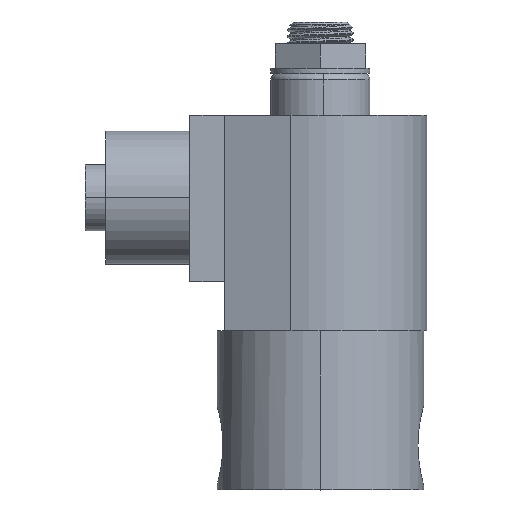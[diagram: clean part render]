
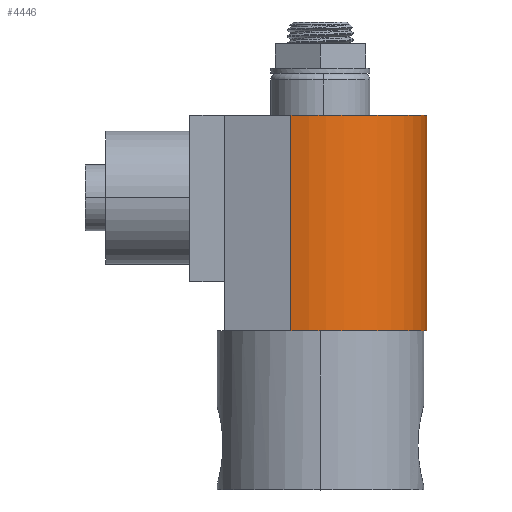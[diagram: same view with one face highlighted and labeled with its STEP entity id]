
A CAD part, top view. The second image highlights one B-rep face of the part: STEP entity #4446.
In plain terms, the highlighted cylindrical face has radius 20.32 mm (diameter 40.64 mm), a partial arc.
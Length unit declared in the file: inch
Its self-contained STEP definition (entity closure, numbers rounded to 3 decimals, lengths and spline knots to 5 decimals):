
#362 = DIRECTION ( 'NONE',  ( 1., 0., 0. ) ) ;
#1172 = CARTESIAN_POINT ( 'NONE',  ( -0.22081, 2.815, 0.76892 ) ) ;
#1301 = CARTESIAN_POINT ( 'NONE',  ( 0.8, 2.815, 0. ) ) ;
#1492 = VERTEX_POINT ( 'NONE', #1301 ) ;
#4401 = CARTESIAN_POINT ( 'NONE',  ( -0.22081, 2.815, 0.76892 ) ) ;
#4440 = CIRCLE ( 'NONE', #8293, 0.8 ) ;
#4446 = ADVANCED_FACE ( 'Defeatured_0_3', ( #11208 ), #5120, .T. ) ;
#4707 = CIRCLE ( 'NONE', #12913, 0.8 ) ;
#4774 = VERTEX_POINT ( 'NONE', #4401 ) ;
#5120 = CYLINDRICAL_SURFACE ( 'NONE', #13605, 0.8 ) ;
#5169 = ORIENTED_EDGE ( 'NONE', *, *, #11295, .F. ) ;
#5273 = DIRECTION ( 'NONE',  ( -1., 0., 0. ) ) ;
#5574 = ORIENTED_EDGE ( 'NONE', *, *, #11429, .T. ) ;
#5622 = CARTESIAN_POINT ( 'NONE',  ( 0., 1.195, 0. ) ) ;
#5702 = CARTESIAN_POINT ( 'NONE',  ( 0.8, 2.815, 0. ) ) ;
#7281 = EDGE_LOOP ( 'NONE', ( #5169, #12145, #7840, #5574 ) ) ;
#7673 = EDGE_CURVE ( 'Defeatured_0_3+Defeatured_0_2+Defeatured_0_0+Defeatured_0_5', #4774, #14211, #10675, .T. ) ;
#7689 = CARTESIAN_POINT ( 'NONE',  ( 0., 2.815, 0. ) ) ;
#7840 = ORIENTED_EDGE ( 'NONE', *, *, #7673, .T. ) ;
#8293 = AXIS2_PLACEMENT_3D ( 'NONE', #7689, #12557, #5273 ) ;
#8783 = VECTOR ( 'NONE', #15730, 39.37008 ) ;
#8985 = DIRECTION ( 'NONE',  ( 0., -1., 0. ) ) ;
#10497 = DIRECTION ( 'NONE',  ( 0., 1., 0. ) ) ;
#10502 = EDGE_CURVE ( 'Defeatured_0_0+Defeatured_0_3+Defeatured_0_2+Defeatured_0_4', #4774, #1492, #4440, .T. ) ;
#10675 = LINE ( 'NONE', #1172, #8783 ) ;
#11208 = FACE_OUTER_BOUND ( 'NONE', #7281, .T. ) ;
#11281 = CARTESIAN_POINT ( 'NONE',  ( 0.8, 1.195, 0. ) ) ;
#11295 = EDGE_CURVE ( 'NONE', #1492, #15620, #14111, .T. ) ;
#11429 = EDGE_CURVE ( 'Defeatured_0_3+Defeatured_0_5+Defeatured_0_2+Defeatured_0_4', #14211, #15620, #4707, .T. ) ;
#12145 = ORIENTED_EDGE ( 'NONE', *, *, #10502, .F. ) ;
#12414 = CARTESIAN_POINT ( 'NONE',  ( 0., 2.815, 0. ) ) ;
#12557 = DIRECTION ( 'NONE',  ( 0., 1., 0. ) ) ;
#12913 = AXIS2_PLACEMENT_3D ( 'NONE', #5622, #10497, #15390 ) ;
#13001 = CARTESIAN_POINT ( 'NONE',  ( -0.22081, 1.195, 0.76892 ) ) ;
#13004 = DIRECTION ( 'NONE',  ( 0., -1., 0. ) ) ;
#13605 = AXIS2_PLACEMENT_3D ( 'NONE', #12414, #8985, #362 ) ;
#13653 = VECTOR ( 'NONE', #13004, 39.37008 ) ;
#14111 = LINE ( 'NONE', #5702, #13653 ) ;
#14211 = VERTEX_POINT ( 'NONE', #13001 ) ;
#15390 = DIRECTION ( 'NONE',  ( -1., 0., 0. ) ) ;
#15620 = VERTEX_POINT ( 'NONE', #11281 ) ;
#15730 = DIRECTION ( 'NONE',  ( 0., -1., 0. ) ) ;
